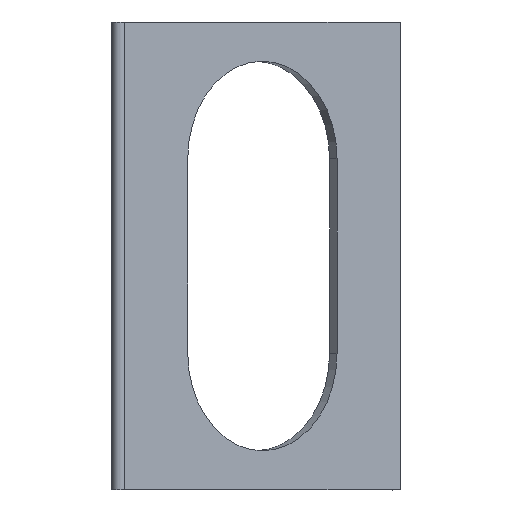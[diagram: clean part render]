
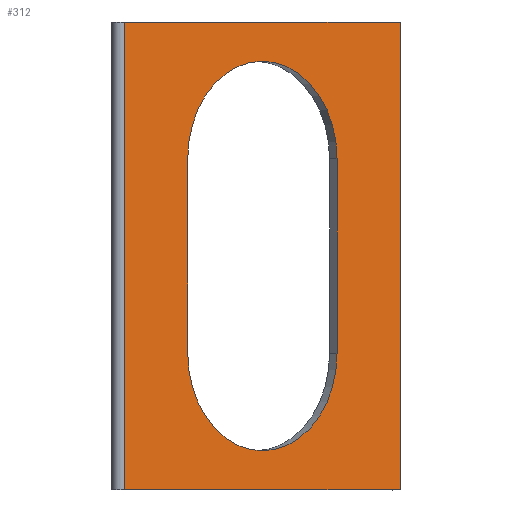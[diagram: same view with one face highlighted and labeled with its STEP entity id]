
A CAD part, top view. The second image highlights one B-rep face of the part: STEP entity #312.
In plain terms, the highlighted planar face has unit normal (0.643, 0, 0.766).
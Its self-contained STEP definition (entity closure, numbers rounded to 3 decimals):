
#19=FACE_BOUND('',#71,.T.);
#22=CIRCLE('',#334,25.);
#24=CIRCLE('',#338,25.);
#50=FACE_OUTER_BOUND('',#70,.T.);
#70=EDGE_LOOP('',(#259,#260,#261,#262));
#71=EDGE_LOOP('',(#263,#264,#265,#266));
#79=LINE('',#455,#109);
#83=LINE('',#467,#113);
#91=LINE('',#499,#121);
#96=LINE('',#508,#126);
#101=LINE('',#523,#131);
#102=LINE('',#524,#132);
#109=VECTOR('',#365,10.);
#113=VECTOR('',#377,10.);
#121=VECTOR('',#409,10.);
#126=VECTOR('',#416,10.);
#131=VECTOR('',#433,10.);
#132=VECTOR('',#434,10.);
#139=VERTEX_POINT('',#452);
#140=VERTEX_POINT('',#454);
#142=VERTEX_POINT('',#460);
#144=VERTEX_POINT('',#466);
#153=VERTEX_POINT('',#492);
#156=VERTEX_POINT('',#497);
#159=VERTEX_POINT('',#506);
#163=VERTEX_POINT('',#522);
#167=EDGE_CURVE('',#140,#139,#79,.T.);
#170=EDGE_CURVE('',#142,#140,#22,.T.);
#173=EDGE_CURVE('',#144,#142,#83,.T.);
#176=EDGE_CURVE('',#139,#144,#24,.T.);
#189=EDGE_CURVE('',#156,#153,#91,.T.);
#194=EDGE_CURVE('',#156,#159,#96,.T.);
#201=EDGE_CURVE('',#159,#163,#101,.T.);
#202=EDGE_CURVE('',#153,#163,#102,.T.);
#259=ORIENTED_EDGE('',*,*,#189,.F.);
#260=ORIENTED_EDGE('',*,*,#194,.T.);
#261=ORIENTED_EDGE('',*,*,#201,.T.);
#262=ORIENTED_EDGE('',*,*,#202,.F.);
#263=ORIENTED_EDGE('',*,*,#167,.T.);
#264=ORIENTED_EDGE('',*,*,#176,.T.);
#265=ORIENTED_EDGE('',*,*,#173,.T.);
#266=ORIENTED_EDGE('',*,*,#170,.T.);
#296=PLANE('',#354);
#312=ADVANCED_FACE('',(#50,#19),#296,.T.);
#334=AXIS2_PLACEMENT_3D('',#461,#371,#372);
#338=AXIS2_PLACEMENT_3D('',#471,#383,#384);
#354=AXIS2_PLACEMENT_3D('',#521,#431,#432);
#365=DIRECTION('',(0.,1.,0.));
#371=DIRECTION('center_axis',(-0.643,0.,-0.766));
#372=DIRECTION('ref_axis',(-0.766,0.,0.643));
#377=DIRECTION('',(0.,-1.,0.));
#383=DIRECTION('center_axis',(-0.643,0.,-0.766));
#384=DIRECTION('ref_axis',(0.766,0.,-0.643));
#409=DIRECTION('',(0.,1.,0.));
#416=DIRECTION('',(0.766,0.,-0.643));
#431=DIRECTION('center_axis',(0.643,0.,0.766));
#432=DIRECTION('ref_axis',(0.766,0.,-0.643));
#433=DIRECTION('',(0.,1.,0.));
#434=DIRECTION('',(0.766,0.,-0.643));
#452=CARTESIAN_POINT('',(17.976,85.,16.874));
#454=CARTESIAN_POINT('',(17.976,35.,16.874));
#455=CARTESIAN_POINT('',(17.976,17.5,16.874));
#460=CARTESIAN_POINT('',(56.279,35.,-15.265));
#461=CARTESIAN_POINT('Origin',(37.127,35.,0.804));
#466=CARTESIAN_POINT('',(56.279,85.,-15.265));
#467=CARTESIAN_POINT('',(56.279,42.5,-15.265));
#471=CARTESIAN_POINT('Origin',(37.127,85.,0.804));
#492=CARTESIAN_POINT('',(1.786,120.,30.46));
#497=CARTESIAN_POINT('',(1.786,0.,30.46));
#499=CARTESIAN_POINT('',(1.786,0.,30.46));
#506=CARTESIAN_POINT('',(72.469,0.,-28.851));
#508=CARTESIAN_POINT('',(0.964,0.,31.149));
#521=CARTESIAN_POINT('Origin',(0.964,0.,31.149));
#522=CARTESIAN_POINT('',(72.469,120.,-28.851));
#523=CARTESIAN_POINT('',(72.469,0.,-28.851));
#524=CARTESIAN_POINT('',(0.964,120.,31.149));
